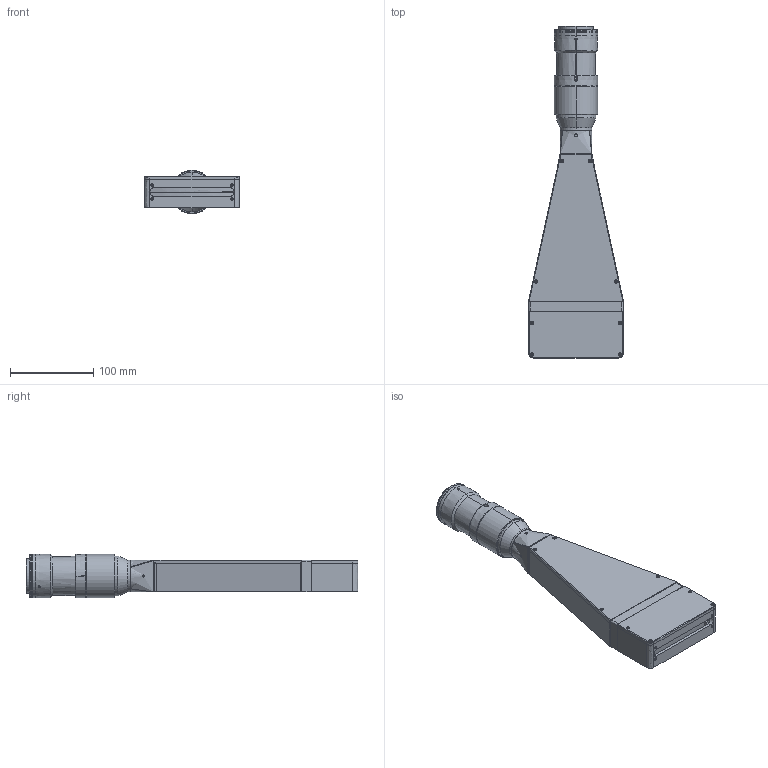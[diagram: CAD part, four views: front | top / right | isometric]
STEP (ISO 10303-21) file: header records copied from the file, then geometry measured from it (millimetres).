
FILE_DESCRIPTION(('LS-TCL-0284'),'2;1');
FILE_NAME('LS-TCL-0284.stp','2026-10-15T21:55:21',('LumaSpec Vision'),('LumaSpec Vision'),'LumaSpec Vision','LumaSpec Vision','');
FILE_SCHEMA(('AUTOMOTIVE_DESIGN { 1 0 10303 214 1 1 1 1 }'));
Length unit declared in the file: millimetre
Products named in the file (238): LumaSpec Vision
Assembly tree (237 placements, depth 2):
  LumaSpec Vision
    LumaSpec Vision
    LumaSpec Vision
    LumaSpec Vision
    LumaSpec Vision
    LumaSpec Vision
    LumaSpec Vision
    LumaSpec Vision
    LumaSpec Vision
    LumaSpec Vision
    LumaSpec Vision
    LumaSpec Vision
    LumaSpec Vision
    LumaSpec Vision
    LumaSpec Vision
    LumaSpec Vision
    LumaSpec Vision
    LumaSpec Vision
    LumaSpec Vision
    LumaSpec Vision
    LumaSpec Vision
    LumaSpec Vision
    LumaSpec Vision
    LumaSpec Vision
    LumaSpec Vision
    LumaSpec Vision
    LumaSpec Vision
    LumaSpec Vision
    LumaSpec Vision
    LumaSpec Vision
    LumaSpec Vision
    LumaSpec Vision
    LumaSpec Vision
    LumaSpec Vision
    LumaSpec Vision
    LumaSpec Vision
    LumaSpec Vision
    LumaSpec Vision
    LumaSpec Vision
    LumaSpec Vision
    LumaSpec Vision
    LumaSpec Vision
    LumaSpec Vision
    LumaSpec Vision
    LumaSpec Vision
    LumaSpec Vision
    LumaSpec Vision
    LumaSpec Vision
    LumaSpec Vision
    LumaSpec Vision
    LumaSpec Vision
    LumaSpec Vision
    LumaSpec Vision
    LumaSpec Vision
    LumaSpec Vision
    LumaSpec Vision
    LumaSpec Vision
    LumaSpec Vision
    LumaSpec Vision
    LumaSpec Vision
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Bounding box: 114 x 399.61 x 52 mm (x, y, z)
Surface area: 108046.4 mm2 (no closed solid volume)
Topology: 0 solids, 237 shells, 237 faces, 4158 edges, 4157 vertices
Faces by surface type: revolution 123, bspline 114
Entity records: 69985 total; most frequent: CARTESIAN_POINT 28268, B_SPLINE_CURVE_WITH_KNOTS 7309, ORIENTED_EDGE 4157, EDGE_CURVE 4157, VERTEX_POINT 4157, SURFACE_CURVE 4157, PCURVE 4157, DEFINITIONAL_REPRESENTATION 4157
